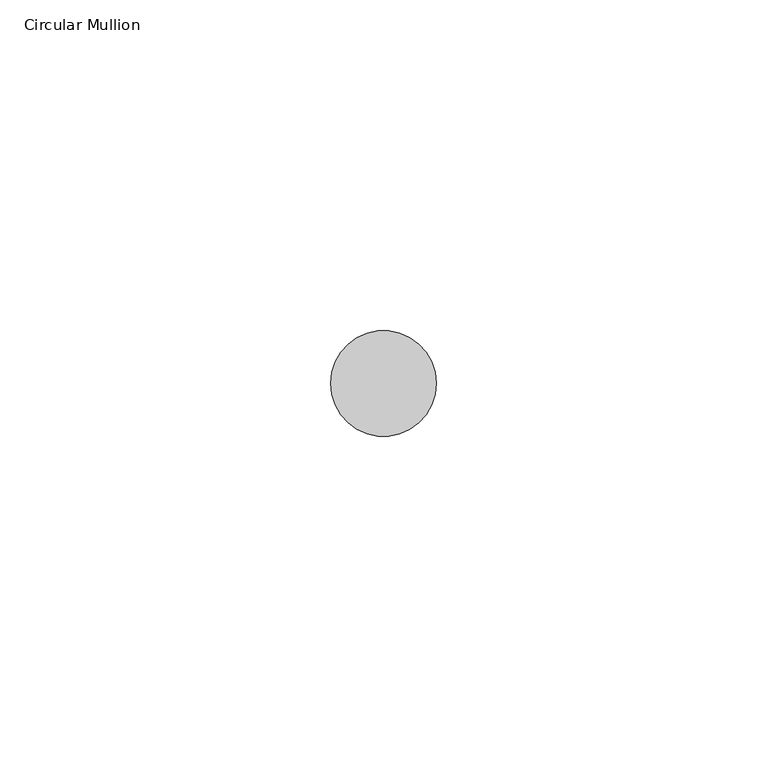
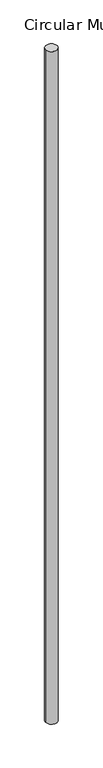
"""IFC4 building model written with IfcOpenShell, lengths in millimetres: member geometry, Circular Mullion : ARQ_HERR_16mm."""

from ifc_helpers import new_model, si_unit, point, frame, origin, origin_2d, place, context, project, spatial, circle_curve, trimmed, segment, composite_curve, outline, extrude, source, transform, mapped, element, save


def circular_mullion_db63050f(model_context):
    return source(origin(), model_context, "Body", "SweptSolid", [
        extrude(outline(composite_curve([segment(trimmed(circle_curve(origin_2d(), 8.0), [point((8.0, 0.0))], [point((-8.0, 0.0))], False, "CARTESIAN"), True, "CONTINUOUS"), segment(trimmed(circle_curve(origin_2d(), 8.0), [point((-8.0, 0.0))], [point((8.0, 0.0))], False, "CARTESIAN"), True, "CONTINUOUS")], self_intersect=False)), frame((0.0, 0.0, -967.5170125), z_axis=(0.0, 0.0, 1.0), x_axis=(1.0, 0.0, 0.0)), (0.0, 0.0, 1.0), 967.5170125),
    ])


if __name__ == "__main__":
    model = new_model("IFC4")
    model_context = context("Model", 3, world=origin())
    ifc_project = project(units=[si_unit("LENGTHUNIT", "METRE", prefix="MILLI")], contexts=[model_context])
    site = spatial("IfcSite", under=ifc_project)
    building = spatial("IfcBuilding", under=site)
    placement = place(None, origin())
    circular_mullion_shape = circular_mullion_db63050f(model_context)
    element("IfcMember", 1, ObjectType="Circular Mullion : ARQ_HERR_16mm", at=placement, inside=building, context=model_context, shape_type="MappedRepresentation", body=[
        mapped(circular_mullion_shape, transform((0.0, 0.0, 0.0), x_axis=(1.0, 0.0, 0.0), y_axis=(0.0, 1.0, 0.0), z_axis=(0.0, 0.0, 1.0))),
    ])
    save(model, "model.ifc")
